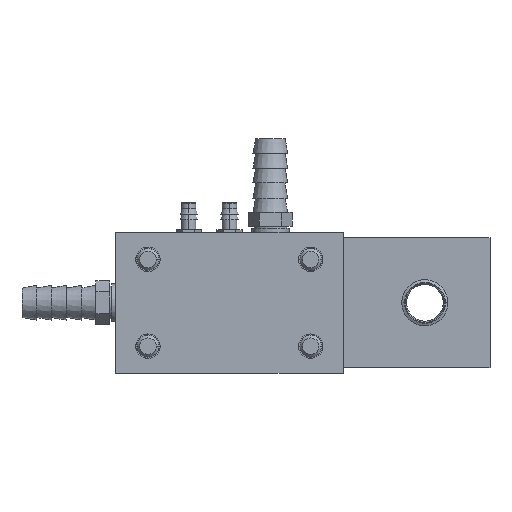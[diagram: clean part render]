
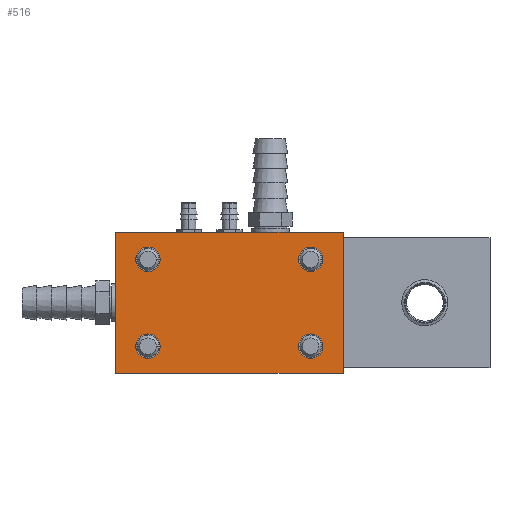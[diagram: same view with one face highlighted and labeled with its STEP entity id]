
A CAD part, left-side view. The second image highlights one B-rep face of the part: STEP entity #516.
In plain terms, the highlighted planar face has unit normal (-1, 0, 0).
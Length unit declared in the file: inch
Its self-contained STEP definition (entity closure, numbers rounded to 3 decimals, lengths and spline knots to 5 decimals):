
#251=CARTESIAN_POINT('',(-3.6875,-0.935,-0.5));
#252=DIRECTION('',(1.,0.,0.));
#253=DIRECTION('',(0.,-1.,0.));
#254=AXIS2_PLACEMENT_3D('',#251,#252,#253);
#256=CARTESIAN_POINT('',(-3.6875,-0.935,-0.5));
#257=DIRECTION('',(1.,0.,0.));
#258=DIRECTION('',(0.,1.,0.));
#259=AXIS2_PLACEMENT_3D('',#256,#257,#258);
#261=CARTESIAN_POINT('',(-3.6875,-0.935,0.5));
#262=DIRECTION('',(1.,0.,0.));
#263=DIRECTION('',(0.,-1.,0.));
#264=AXIS2_PLACEMENT_3D('',#261,#262,#263);
#266=CARTESIAN_POINT('',(-3.6875,-0.935,0.5));
#267=DIRECTION('',(1.,0.,0.));
#268=DIRECTION('',(0.,1.,0.));
#269=AXIS2_PLACEMENT_3D('',#266,#267,#268);
#271=CARTESIAN_POINT('',(-3.6875,0.94,-0.5));
#272=DIRECTION('',(1.,0.,0.));
#273=DIRECTION('',(0.,-1.,0.));
#274=AXIS2_PLACEMENT_3D('',#271,#272,#273);
#276=CARTESIAN_POINT('',(-3.6875,0.94,-0.5));
#277=DIRECTION('',(1.,0.,0.));
#278=DIRECTION('',(0.,1.,0.));
#279=AXIS2_PLACEMENT_3D('',#276,#277,#278);
#281=CARTESIAN_POINT('',(-3.6875,0.94,0.5));
#282=DIRECTION('',(1.,0.,0.));
#283=DIRECTION('',(0.,-1.,0.));
#284=AXIS2_PLACEMENT_3D('',#281,#282,#283);
#286=CARTESIAN_POINT('',(-3.6875,0.94,0.5));
#287=DIRECTION('',(1.,0.,0.));
#288=DIRECTION('',(0.,1.,0.));
#289=AXIS2_PLACEMENT_3D('',#286,#287,#288);
#319=DIRECTION('',(0.,-1.,0.));
#320=VECTOR('',#319,2.625);
#321=CARTESIAN_POINT('',(-3.6875,1.315,0.8125));
#322=LINE('',#321,#320);
#327=DIRECTION('',(0.,0.,-1.));
#328=VECTOR('',#327,1.625);
#329=CARTESIAN_POINT('',(-3.6875,-1.31,0.8125));
#330=LINE('',#329,#328);
#339=DIRECTION('',(0.,1.,0.));
#340=VECTOR('',#339,2.625);
#341=CARTESIAN_POINT('',(-3.6875,-1.31,-0.8125));
#342=LINE('',#341,#340);
#355=DIRECTION('',(0.,0.,1.));
#356=VECTOR('',#355,1.625);
#357=CARTESIAN_POINT('',(-3.6875,1.315,-0.8125));
#358=LINE('',#357,#356);
#369=CARTESIAN_POINT('',(-3.6875,1.315,-0.8125));
#370=VERTEX_POINT('',#369);
#371=CARTESIAN_POINT('',(-3.6875,1.315,0.8125));
#372=VERTEX_POINT('',#371);
#375=CARTESIAN_POINT('',(-3.6875,-1.31,-0.8125));
#376=VERTEX_POINT('',#375);
#377=CARTESIAN_POINT('',(-3.6875,-1.31,0.8125));
#378=VERTEX_POINT('',#377);
#379=CARTESIAN_POINT('',(-3.6875,-1.07563,-0.5));
#381=VERTEX_POINT('',#379);
#383=CARTESIAN_POINT('',(-3.6875,-0.79438,-0.5));
#385=VERTEX_POINT('',#383);
#387=CARTESIAN_POINT('',(-3.6875,-1.07563,0.5));
#389=VERTEX_POINT('',#387);
#391=CARTESIAN_POINT('',(-3.6875,-0.79438,0.5));
#393=VERTEX_POINT('',#391);
#395=CARTESIAN_POINT('',(-3.6875,0.79938,-0.5));
#397=VERTEX_POINT('',#395);
#399=CARTESIAN_POINT('',(-3.6875,1.08063,-0.5));
#401=VERTEX_POINT('',#399);
#403=CARTESIAN_POINT('',(-3.6875,0.79938,0.5));
#405=VERTEX_POINT('',#403);
#407=CARTESIAN_POINT('',(-3.6875,1.08063,0.5));
#409=VERTEX_POINT('',#407);
#479=CARTESIAN_POINT('',(-3.6875,0.0025,0.));
#480=DIRECTION('',(-1.,0.,0.));
#481=DIRECTION('',(0.,1.,0.));
#482=AXIS2_PLACEMENT_3D('',#479,#480,#481);
#483=PLANE('',#482);
#485=ORIENTED_EDGE('',*,*,#484,.T.);
#487=ORIENTED_EDGE('',*,*,#486,.T.);
#489=ORIENTED_EDGE('',*,*,#488,.T.);
#491=ORIENTED_EDGE('',*,*,#490,.T.);
#492=EDGE_LOOP('',(#485,#487,#489,#491));
#493=FACE_OUTER_BOUND('',#492,.F.);
#495=ORIENTED_EDGE('',*,*,#494,.F.);
#497=ORIENTED_EDGE('',*,*,#496,.F.);
#498=EDGE_LOOP('',(#495,#497));
#499=FACE_BOUND('',#498,.F.);
#501=ORIENTED_EDGE('',*,*,#500,.F.);
#503=ORIENTED_EDGE('',*,*,#502,.F.);
#504=EDGE_LOOP('',(#501,#503));
#505=FACE_BOUND('',#504,.F.);
#507=ORIENTED_EDGE('',*,*,#506,.F.);
#509=ORIENTED_EDGE('',*,*,#508,.F.);
#510=EDGE_LOOP('',(#507,#509));
#511=FACE_BOUND('',#510,.F.);
#512=ORIENTED_EDGE('',*,*,#420,.F.);
#513=ORIENTED_EDGE('',*,*,#473,.F.);
#514=EDGE_LOOP('',(#512,#513));
#515=FACE_BOUND('',#514,.F.);
#255=CIRCLE('',#254,0.14063);
#260=CIRCLE('',#259,0.14063);
#265=CIRCLE('',#264,0.14063);
#270=CIRCLE('',#269,0.14063);
#275=CIRCLE('',#274,0.14063);
#280=CIRCLE('',#279,0.14063);
#285=CIRCLE('',#284,0.14063);
#290=CIRCLE('',#289,0.14063);
#420=EDGE_CURVE('',#381,#385,#255,.T.);
#473=EDGE_CURVE('',#385,#381,#260,.T.);
#484=EDGE_CURVE('',#372,#378,#322,.T.);
#486=EDGE_CURVE('',#378,#376,#330,.T.);
#488=EDGE_CURVE('',#376,#370,#342,.T.);
#490=EDGE_CURVE('',#370,#372,#358,.T.);
#494=EDGE_CURVE('',#389,#393,#265,.T.);
#496=EDGE_CURVE('',#393,#389,#270,.T.);
#500=EDGE_CURVE('',#397,#401,#275,.T.);
#502=EDGE_CURVE('',#401,#397,#280,.T.);
#506=EDGE_CURVE('',#405,#409,#285,.T.);
#508=EDGE_CURVE('',#409,#405,#290,.T.);
#516=ADVANCED_FACE('',(#493,#499,#505,#511,#515),#483,.T.);
